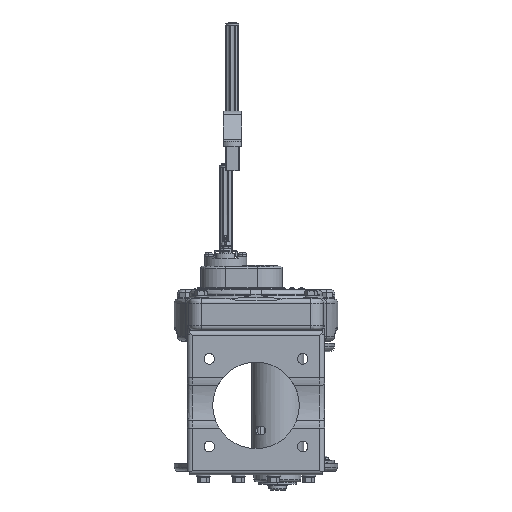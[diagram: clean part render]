
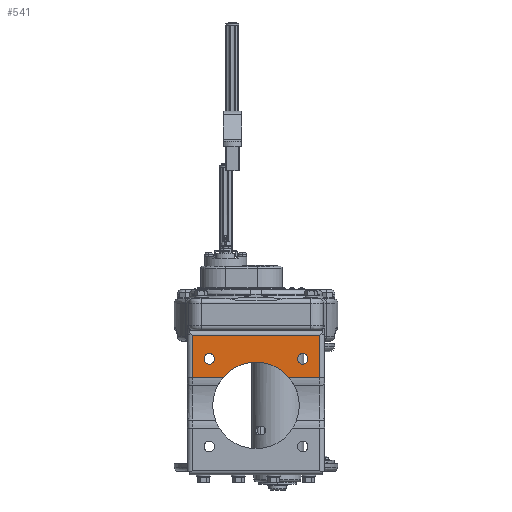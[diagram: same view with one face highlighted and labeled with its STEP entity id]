
A CAD part, front view. The second image highlights one B-rep face of the part: STEP entity #541.
In plain terms, the highlighted planar face has unit normal (0, -1, 0).
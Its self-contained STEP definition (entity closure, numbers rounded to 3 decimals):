
#541=ADVANCED_FACE('',(#6969,#6970,#6971),#6968,.F.);
#6968=PLANE('',#34382);
#6969=FACE_OUTER_BOUND('',#34383,.T.);
#6970=FACE_BOUND('',#34384,.T.);
#6971=FACE_BOUND('',#34385,.T.);
#34379=CARTESIAN_POINT('',(-127.722,-108.7,-182.168));
#34380=DIRECTION('',(0.,1.,0.));
#34381=DIRECTION('',(0.,0.,-1.));
#34382=AXIS2_PLACEMENT_3D('',#34379,#34380,#34381);
#34383=EDGE_LOOP('',(#56514,#56515,#56516,#56517,#56518,#56519,#56520));
#34384=EDGE_LOOP('',(#56521,#56522));
#34385=EDGE_LOOP('',(#56523,#56524));
#56514=ORIENTED_EDGE('',*,*,#70319,.T.);
#56515=ORIENTED_EDGE('',*,*,#70320,.T.);
#56516=ORIENTED_EDGE('',*,*,#70321,.T.);
#56517=ORIENTED_EDGE('',*,*,#70322,.T.);
#56518=ORIENTED_EDGE('',*,*,#70228,.T.);
#56519=ORIENTED_EDGE('',*,*,#70318,.F.);
#56520=ORIENTED_EDGE('',*,*,#70159,.F.);
#56521=ORIENTED_EDGE('',*,*,#70323,.T.);
#56522=ORIENTED_EDGE('',*,*,#70324,.T.);
#56523=ORIENTED_EDGE('',*,*,#70325,.T.);
#56524=ORIENTED_EDGE('',*,*,#70326,.T.);
#70159=EDGE_CURVE('',#83749,#83750,#83751,.T.);
#70228=EDGE_CURVE('',#84215,#84208,#84216,.T.);
#70318=EDGE_CURVE('',#83750,#84208,#84820,.T.);
#70319=EDGE_CURVE('',#83749,#84826,#84827,.T.);
#70320=EDGE_CURVE('',#84826,#84833,#84834,.T.);
#70321=EDGE_CURVE('',#84833,#84840,#84841,.T.);
#70322=EDGE_CURVE('',#84840,#84215,#84847,.T.);
#70323=EDGE_CURVE('',#84853,#84854,#84855,.T.);
#70324=EDGE_CURVE('',#84854,#84853,#84861,.T.);
#70325=EDGE_CURVE('',#84867,#84868,#84869,.T.);
#70326=EDGE_CURVE('',#84868,#84867,#84875,.T.);
#83749=VERTEX_POINT('',#130289);
#83750=VERTEX_POINT('',#130290);
#83751=LINE('',#130291,#130292);
#84208=VERTEX_POINT('',#130580);
#84215=VERTEX_POINT('',#130584);
#84216=LINE('',#130585,#130586);
#84820=LINE('',#130966,#130967);
#84826=VERTEX_POINT('',#130969);
#84827=LINE('',#130970,#130971);
#84833=VERTEX_POINT('',#130973);
#84834=CIRCLE('',#130977,74.);
#84840=VERTEX_POINT('',#130978);
#84841=CIRCLE('',#130982,74.);
#84847=LINE('',#130983,#130984);
#84853=VERTEX_POINT('',#130986);
#84854=VERTEX_POINT('',#130987);
#84855=CIRCLE('',#130991,9.);
#84861=CIRCLE('',#130995,9.);
#84867=VERTEX_POINT('',#130996);
#84868=VERTEX_POINT('',#130997);
#84869=CIRCLE('',#131001,9.);
#84875=CIRCLE('',#131005,9.);
#130289=CARTESIAN_POINT('',(-356.722,-108.7,-261.321));
#130290=CARTESIAN_POINT('',(-356.722,-108.7,-189.364));
#130291=CARTESIAN_POINT('',(-356.722,-108.7,-261.321));
#130292=VECTOR('',#130293,71.957);
#130293=DIRECTION('',(0.,0.,1.));
#130580=CARTESIAN_POINT('',(-137.722,-108.7,-189.364));
#130584=CARTESIAN_POINT('',(-137.722,-108.7,-261.321));
#130585=CARTESIAN_POINT('',(-137.722,-108.7,-261.321));
#130586=VECTOR('',#130587,71.957);
#130587=DIRECTION('',(0.,0.,1.));
#130966=CARTESIAN_POINT('',(-356.722,-108.7,-189.364));
#130967=VECTOR('',#130968,219.);
#130968=DIRECTION('',(1.,0.,0.));
#130969=CARTESIAN_POINT('',(-303.505,-108.7,-261.321));
#130970=CARTESIAN_POINT('',(-356.722,-108.7,-261.321));
#130971=VECTOR('',#130972,53.216);
#130972=DIRECTION('',(1.,0.,0.));
#130973=CARTESIAN_POINT('',(-247.222,-108.7,-235.364));
#130974=CARTESIAN_POINT('',(-247.222,-108.7,-309.364));
#130975=DIRECTION('',(0.,1.,0.));
#130976=DIRECTION('',(-0.761,0.,0.649));
#130977=AXIS2_PLACEMENT_3D('',#130974,#130975,#130976);
#130978=CARTESIAN_POINT('',(-190.938,-108.7,-261.321));
#130979=CARTESIAN_POINT('',(-247.222,-108.7,-309.364));
#130980=DIRECTION('',(0.,1.,0.));
#130981=DIRECTION('',(-0.761,0.,0.649));
#130982=AXIS2_PLACEMENT_3D('',#130979,#130980,#130981);
#130983=CARTESIAN_POINT('',(-190.938,-108.7,-261.321));
#130984=VECTOR('',#130985,53.216);
#130985=DIRECTION('',(1.,0.,0.));
#130986=CARTESIAN_POINT('',(-167.222,-108.7,-238.864));
#130987=CARTESIAN_POINT('',(-167.222,-108.7,-220.864));
#130988=CARTESIAN_POINT('',(-167.222,-108.7,-229.864));
#130989=DIRECTION('',(0.,1.,0.));
#130990=DIRECTION('',(0.,0.,-1.));
#130991=AXIS2_PLACEMENT_3D('',#130988,#130989,#130990);
#130992=CARTESIAN_POINT('',(-167.222,-108.7,-229.864));
#130993=DIRECTION('',(0.,1.,0.));
#130994=DIRECTION('',(0.,0.,-1.));
#130995=AXIS2_PLACEMENT_3D('',#130992,#130993,#130994);
#130996=CARTESIAN_POINT('',(-327.222,-108.7,-238.864));
#130997=CARTESIAN_POINT('',(-327.222,-108.7,-220.864));
#130998=CARTESIAN_POINT('',(-327.222,-108.7,-229.864));
#130999=DIRECTION('',(0.,1.,0.));
#131000=DIRECTION('',(0.,0.,-1.));
#131001=AXIS2_PLACEMENT_3D('',#130998,#130999,#131000);
#131002=CARTESIAN_POINT('',(-327.222,-108.7,-229.864));
#131003=DIRECTION('',(0.,1.,0.));
#131004=DIRECTION('',(0.,0.,-1.));
#131005=AXIS2_PLACEMENT_3D('',#131002,#131003,#131004);
